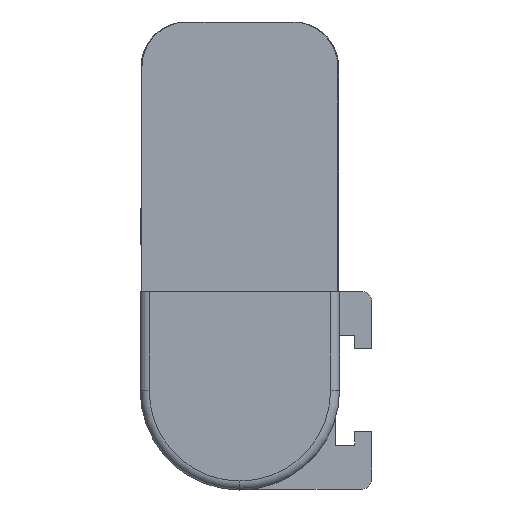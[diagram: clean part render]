
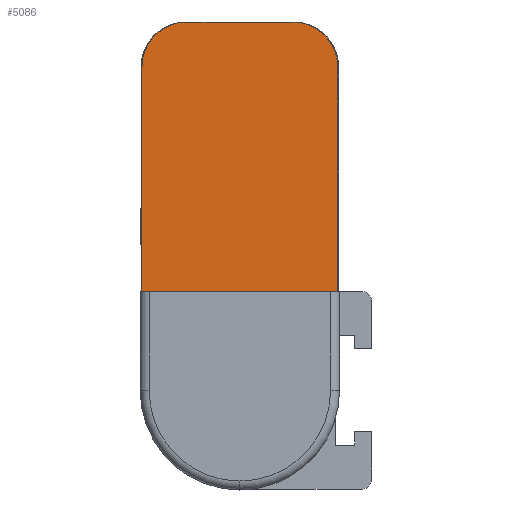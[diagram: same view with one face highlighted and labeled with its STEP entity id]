
A CAD part, left-side view. The second image highlights one B-rep face of the part: STEP entity #5086.
In plain terms, the highlighted planar face has unit normal (-1, 0, 0).
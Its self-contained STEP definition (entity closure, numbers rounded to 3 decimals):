
#735 = CARTESIAN_POINT ( 'NONE',  ( -171., 5.9, 25.1 ) ) ;
#1632 = DIRECTION ( 'NONE',  ( 0., 0., 1. ) ) ;
#1996 = CARTESIAN_POINT ( 'NONE',  ( -171., 10.9, 25.1 ) ) ;
#3428 = EDGE_CURVE ( 'NONE', #23420, #34746, #29808, .T. ) ;
#3616 = CARTESIAN_POINT ( 'NONE',  ( -171., -5.9, 30.1 ) ) ;
#3789 = LINE ( 'NONE', #5059, #35163 ) ;
#3793 = DIRECTION ( 'NONE',  ( 0., 0., -1. ) ) ;
#4467 = ORIENTED_EDGE ( 'NONE', *, *, #30613, .F. ) ;
#5016 = LINE ( 'NONE', #33233, #36408 ) ;
#5039 = ORIENTED_EDGE ( 'NONE', *, *, #22363, .F. ) ;
#5059 = CARTESIAN_POINT ( 'NONE',  ( -171., -10.9, 0.1 ) ) ;
#5086 = ADVANCED_FACE ( 'NONE', ( #30412 ), #23496, .T. ) ;
#6003 = AXIS2_PLACEMENT_3D ( 'NONE', #735, #22019, #3793 ) ;
#6554 = AXIS2_PLACEMENT_3D ( 'NONE', #35712, #17530, #38821 ) ;
#7734 = CIRCLE ( 'NONE', #30585, 5. ) ;
#9033 = CARTESIAN_POINT ( 'NONE',  ( -171., 5.9, 30.1 ) ) ;
#10771 = LINE ( 'NONE', #9033, #34076 ) ;
#12125 = VERTEX_POINT ( 'NONE', #3616 ) ;
#12355 = ORIENTED_EDGE ( 'NONE', *, *, #38616, .F. ) ;
#13613 = VECTOR ( 'NONE', #14109, 1000. ) ;
#14109 = DIRECTION ( 'NONE',  ( 0., 0., -1. ) ) ;
#14801 = EDGE_CURVE ( 'NONE', #12125, #23420, #7734, .T. ) ;
#17284 = CARTESIAN_POINT ( 'NONE',  ( -171., -10.9, 25.1 ) ) ;
#17530 = DIRECTION ( 'NONE',  ( -1., 0., 0. ) ) ;
#18657 = ORIENTED_EDGE ( 'NONE', *, *, #3428, .F. ) ;
#19826 = DIRECTION ( 'NONE',  ( 1., 0., 0. ) ) ;
#20714 = CARTESIAN_POINT ( 'NONE',  ( -171., 10.9, 0.1 ) ) ;
#21147 = DIRECTION ( 'NONE',  ( 0., 0., 1. ) ) ;
#21804 = EDGE_LOOP ( 'NONE', ( #4467, #18657, #36893, #12355, #5039, #38726 ) ) ;
#22019 = DIRECTION ( 'NONE',  ( 1., 0., 0. ) ) ;
#22363 = EDGE_CURVE ( 'NONE', #37545, #28477, #34910, .T. ) ;
#23420 = VERTEX_POINT ( 'NONE', #35061 ) ;
#23496 = PLANE ( 'NONE',  #6554 ) ;
#28477 = VERTEX_POINT ( 'NONE', #31809 ) ;
#29808 = LINE ( 'NONE', #17284, #13613 ) ;
#30382 = DIRECTION ( 'NONE',  ( 0., -1., 0. ) ) ;
#30412 = FACE_OUTER_BOUND ( 'NONE', #21804, .T. ) ;
#30585 = AXIS2_PLACEMENT_3D ( 'NONE', #38072, #19826, #1632 ) ;
#30613 = EDGE_CURVE ( 'NONE', #34746, #39256, #3789, .T. ) ;
#31809 = CARTESIAN_POINT ( 'NONE',  ( -171., 5.9, 30.1 ) ) ;
#33233 = CARTESIAN_POINT ( 'NONE',  ( -171., 10.9, 0.1 ) ) ;
#33503 = CARTESIAN_POINT ( 'NONE',  ( -171., -10.9, 0.1 ) ) ;
#34076 = VECTOR ( 'NONE', #30382, 1000. ) ;
#34746 = VERTEX_POINT ( 'NONE', #33503 ) ;
#34910 = CIRCLE ( 'NONE', #6003, 5. ) ;
#35061 = CARTESIAN_POINT ( 'NONE',  ( -171., -10.9, 25.1 ) ) ;
#35163 = VECTOR ( 'NONE', #38590, 1000. ) ;
#35712 = CARTESIAN_POINT ( 'NONE',  ( -171., 5.9, 25.1 ) ) ;
#36247 = EDGE_CURVE ( 'NONE', #39256, #37545, #5016, .T. ) ;
#36408 = VECTOR ( 'NONE', #21147, 1000. ) ;
#36893 = ORIENTED_EDGE ( 'NONE', *, *, #14801, .F. ) ;
#37545 = VERTEX_POINT ( 'NONE', #1996 ) ;
#38072 = CARTESIAN_POINT ( 'NONE',  ( -171., -5.9, 25.1 ) ) ;
#38590 = DIRECTION ( 'NONE',  ( 0., 1., 0. ) ) ;
#38616 = EDGE_CURVE ( 'NONE', #28477, #12125, #10771, .T. ) ;
#38726 = ORIENTED_EDGE ( 'NONE', *, *, #36247, .F. ) ;
#38821 = DIRECTION ( 'NONE',  ( 0., 0., -1. ) ) ;
#39256 = VERTEX_POINT ( 'NONE', #20714 ) ;
